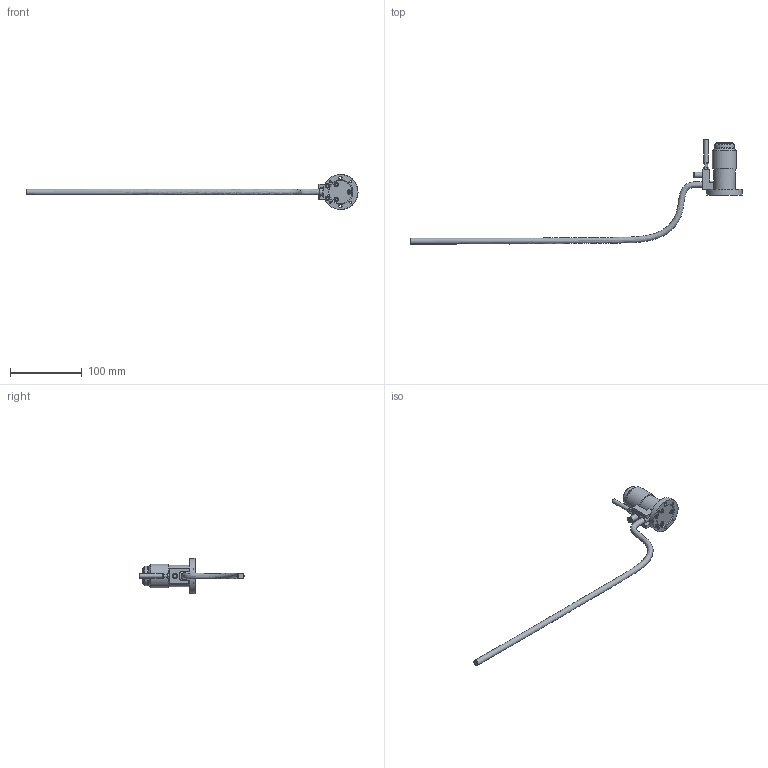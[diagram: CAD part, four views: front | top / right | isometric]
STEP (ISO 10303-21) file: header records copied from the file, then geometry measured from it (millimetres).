
FILE_DESCRIPTION(/* description */ (''),/* implementation_level */ '2;1');
FILE_NAME(/* name */ 'Z:\Проектный отдел\Алена\Датчик высоты нажимной M26D-20-22 регулируемый\Датчик высоты нажимной M26D-20-22 регулируемый.stp',/* time_stamp */ '2024-03-01T12:17:10+03:00',/* author */ ('User'),/* organization */ (''),/* preprocessor_version */ 'ST-DEVELOPER v18',/* originating_system */ 'Autodesk Inventor 2020',/* authorisation */ '');
FILE_SCHEMA (('AUTOMOTIVE_DESIGN { 1 0 10303 214 3 1 1 }'));
Length unit declared in the file: millimetre
Products named in the file (1): Датчик высоты нажимной 
M26D-20-22 регулируемый
Bounding box: 463.85 x 145.39 x 49 mm (x, y, z)
Volume: 92636.4 mm3; surface area: 28188.6 mm2
Topology: 6 solids, 6 shells, 136 faces, 352 edges, 248 vertices
Faces by surface type: plane 99, cylinder 32, cone 3, torus 1, bspline 1
Full cylindrical faces by diameter (mm): 2.85 x4, 4 x2, 4.5 x7, 5.6 x1, 6 x6, 7.6 x1, 7.8 x1, 8 x1, 9.6 x1, 19.5 x1, 21.9 x1, 27 x1, 30 x1, 33.5 x1, 49 x1
Entity records: 4702 total; most frequent: CARTESIAN_POINT 1029, DIRECTION 758, ORIENTED_EDGE 704, EDGE_CURVE 352, AXIS2_PLACEMENT_3D 273, VERTEX_POINT 248, LINE 212, VECTOR 212
